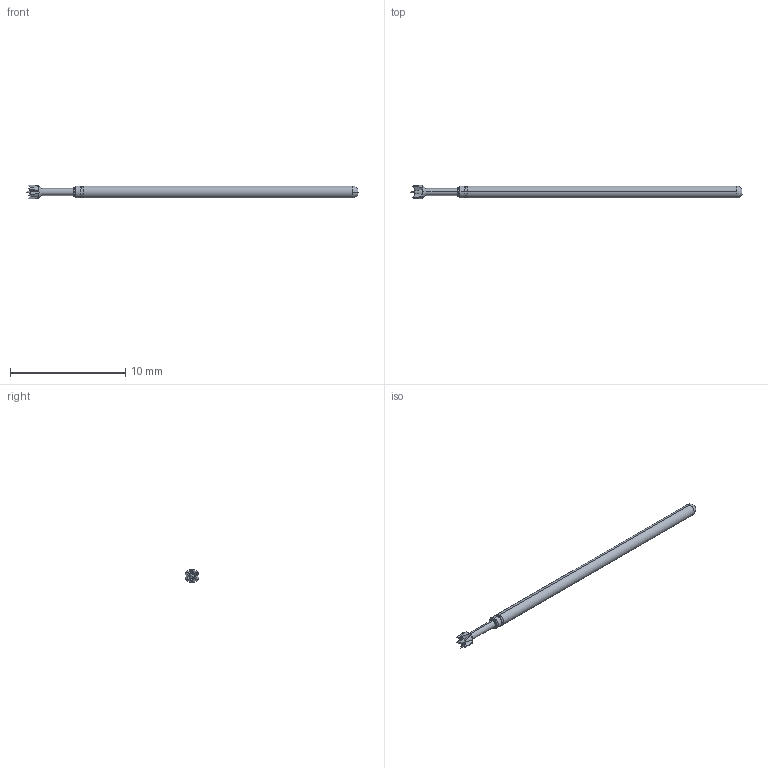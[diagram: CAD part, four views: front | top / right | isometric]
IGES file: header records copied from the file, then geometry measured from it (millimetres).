
Start section: SolidWorks IGES file using analytic representation for surfaces
Global section: file name: Z:\probe solid model mockups\Solidworks models\Parts\LFRE-1V  RECD.IGS; native system: SolidWorks 2016; preprocessor: SolidWorks 2016; author: mlee; date: 180927.164212; units: inch
Bounding box: 28.78 x 1.18 x 1.19 mm (x, y, z)
Surface area: 90.3 mm2 (no closed solid volume)
Topology: 0 solids, 0 shells, 43 faces, 274 edges, 272 vertices
Faces by surface type: revolution 25, bspline 18
